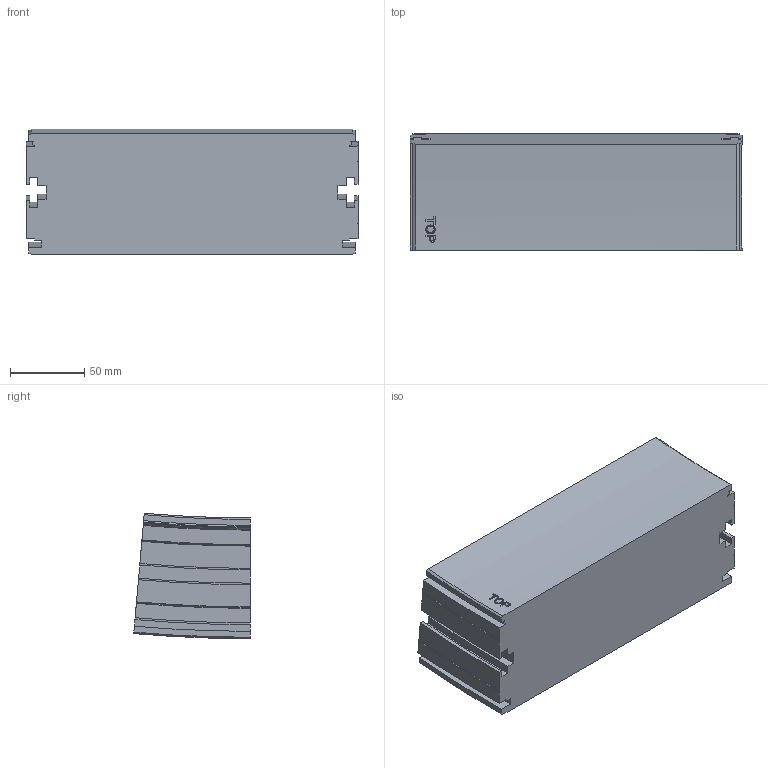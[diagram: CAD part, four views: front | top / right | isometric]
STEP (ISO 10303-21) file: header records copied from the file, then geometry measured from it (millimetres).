
FILE_DESCRIPTION(/* description */ ('VERTIKALKURVA S220 R860'),/* implementation_level */ '2;1');
FILE_NAME(/* name */ '\\carryline.intra\privat\users\mathias\Desktop\Tillfälliga filer\220-5695+220-2000-UPP-01.stp',/* time_stamp */ '2018-11-29T14:49:27+01:00',/* author */ ('MD'),/* organization */ ('CARRYLINE'),/* preprocessor_version */ 'ST-DEVELOPER v17',/* originating_system */ 'Autodesk Inventor 2018',/* authorisation */ '');
FILE_SCHEMA (('AUTOMOTIVE_DESIGN { 1 0 10303 214 3 1 1 }'));
Length unit declared in the file: millimetre
Products named in the file (1): 220-5695+220-2000-UPP-01
Bounding box: 224 x 78.61 x 84.62 mm (x, y, z)
Volume: 1329758.6 mm3; surface area: 92052.1 mm2
Topology: 1 solids, 1 shells, 113 faces, 318 edges, 212 vertices
Faces by surface type: plane 48, cylinder 31, bspline 14, cone 14, torus 6
Entity records: 8349 total; most frequent: CARTESIAN_POINT 5381, ORIENTED_EDGE 636, DIRECTION 576, EDGE_CURVE 318, VERTEX_POINT 212, AXIS2_PLACEMENT_3D 199, LINE 178, VECTOR 178
